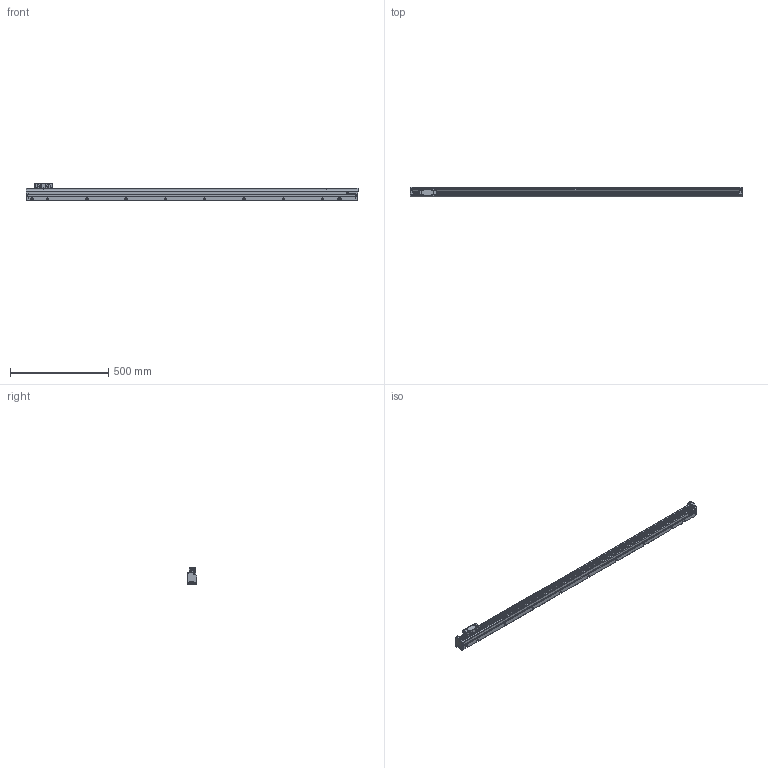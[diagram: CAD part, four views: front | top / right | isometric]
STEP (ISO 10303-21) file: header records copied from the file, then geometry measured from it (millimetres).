
FILE_DESCRIPTION(('Creo Elements/Direct Modeling STEP Export'),'2;1');
FILE_NAME('REGLA_L3_1440_M_T.stp','2020-12-16T 9:21:28',(''),(''),'Creo Elements/Direct Modeling STEP processor for AP214 (Solid Model)','Creo Elements/Direct Modeling 19.0G 27-Nov-2017 (C) Parametric Technology GmbH','');
FILE_SCHEMA(('AUTOMOTIVE_DESIGN { 1 0 10303 214 1 1 1 1 }'));
Length unit declared in the file: millimetre
Products named in the file (3): REGLA_L3_1440_M; CABEZA_L3_T; REGLA_L3_1440_M_T
Assembly tree (2 placements, depth 2):
  REGLA_L3_1440_M_T
    CABEZA_L3_T
    REGLA_L3_1440_M
Bounding box: 1690 x 50 x 85 mm (x, y, z)
Volume: 4459609.4 mm3; surface area: 450804.2 mm2
Topology: 2 solids, 2 shells, 1497 faces, 3980 edges, 2559 vertices
Faces by surface type: plane 731, cylinder 465, cone 178, bspline 63, torus 52, extrusion 6, sphere 2
Entity records: 65784 total; most frequent: CARTESIAN_POINT 23720, ORIENTED_EDGE 7936, DIRECTION 7038, EDGE_CURVE 3968, VERTEX_POINT 2559, AXIS2_PLACEMENT_3D 2370, VECTOR 2298, LINE 2292
